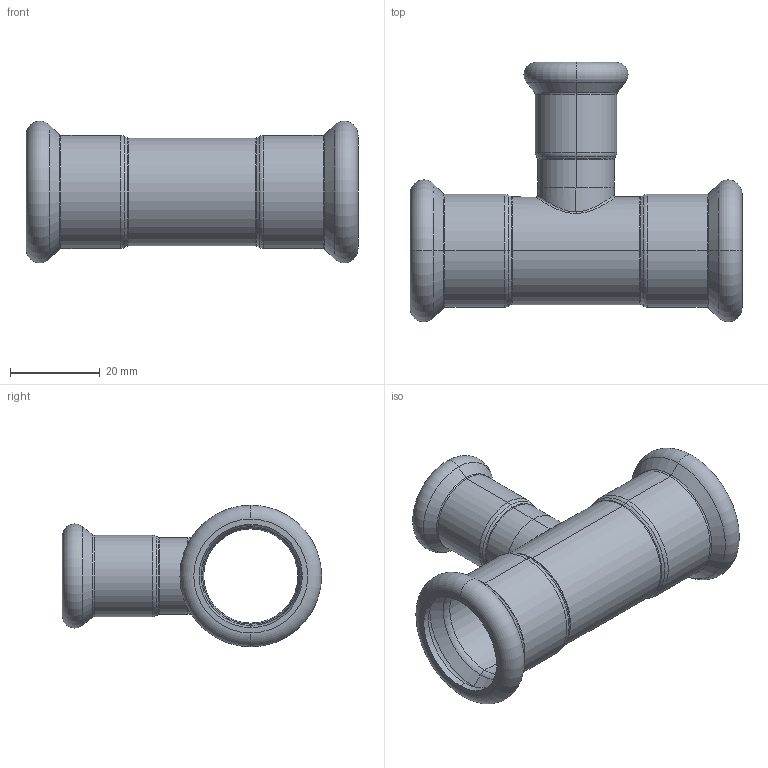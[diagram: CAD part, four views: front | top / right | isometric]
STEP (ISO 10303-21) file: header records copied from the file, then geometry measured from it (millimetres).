
FILE_DESCRIPTION (( 'STEP AP203' ), '1' );
FILE_NAME ('GDA5192.STEP', '2019-01-12T05:40:49', ( '' ), ( '' ), 'SwSTEP 2.0', 'SolidWorks 2015', '' );
FILE_SCHEMA (( 'CONFIG_CONTROL_DESIGN' ));
Length unit declared in the file: millimetre
Products named in the file (3): GDA5192; T-ｉ-01-15; T(R)-¢ñ-22¡Á15''
Assembly tree (2 placements, depth 2):
  GDA5192
    T(R)-¢ñ-22¡Á15''
    T-ｉ-01-15
Bounding box: 74 x 57.8 x 31.59 mm (x, y, z)
Volume: 11581.1 mm3; surface area: 15888.7 mm2
Topology: 2 solids, 2 shells, 114 faces, 234 edges, 128 vertices
Faces by surface type: torus 48, cylinder 30, cone 24, plane 8, bspline 4
Entity records: 4261 total; most frequent: CARTESIAN_POINT 1471, DIRECTION 620, ORIENTED_EDGE 468, AXIS2_PLACEMENT_3D 283, EDGE_CURVE 234, CIRCLE 168, VERTEX_POINT 128, EDGE_LOOP 124
